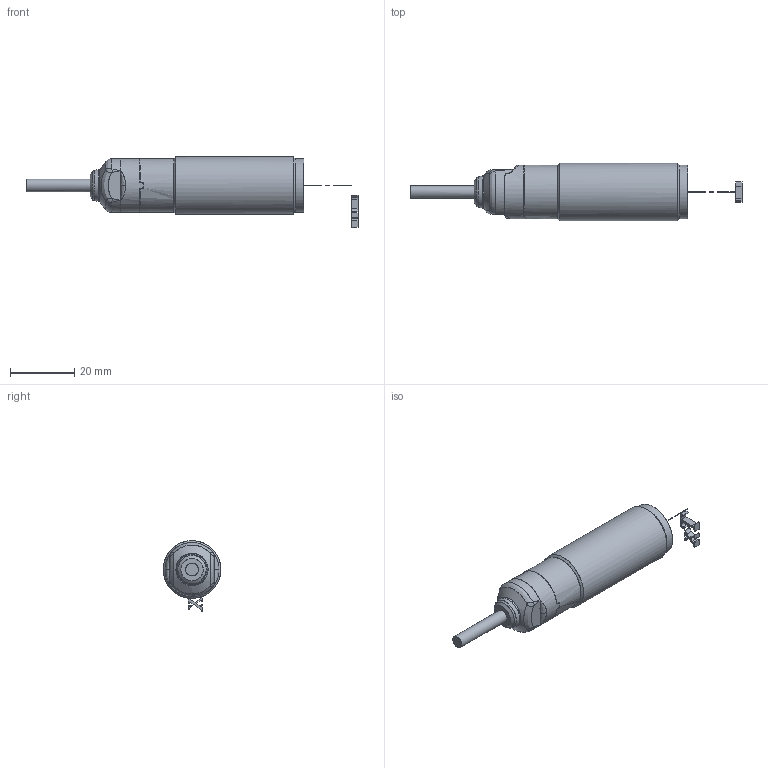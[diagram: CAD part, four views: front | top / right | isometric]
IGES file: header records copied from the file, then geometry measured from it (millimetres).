
Global section: file name: D:\TMP\DSD-0064.igs; preprocessor: I-DEAS 3D IGES Translator 11; date: 20060607.161427; units: millimetre
Bounding box: 103.63 x 17.99 x 22.05 mm (x, y, z)
Surface area: 8646.6 mm2
Topology: 4 solids, 4 shells, 167 faces, 775 edges, 692 vertices
Faces by surface type: bspline 167
